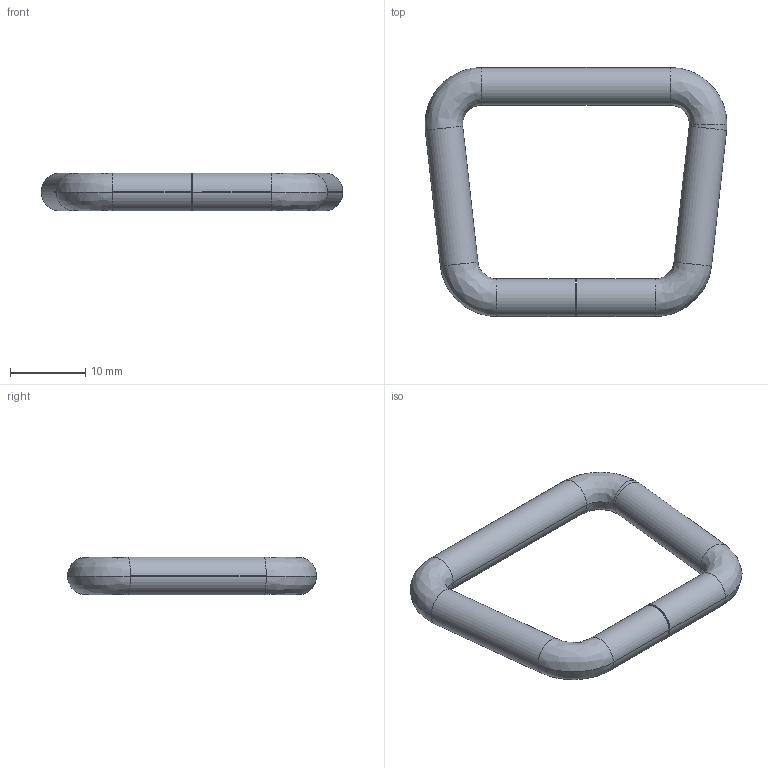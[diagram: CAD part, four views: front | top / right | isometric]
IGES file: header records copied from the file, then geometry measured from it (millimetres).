
Start section: SolidWorks IGES file using analytic representation for surfaces
Global section: file name: C:\Users\cbrechard\Desktop\GO 2032\GO 32.200.10.IGS; native system: SolidWorks 2008; preprocessor: SolidWorks 2008; author: cbrechard; date: 130424.091252; units: millimetre
Bounding box: 40.02 x 33 x 5 mm (x, y, z)
Surface area: 1822.5 mm2 (no closed solid volume)
Topology: 0 solids, 0 shells, 22 faces, 144 edges, 144 vertices
Faces by surface type: bspline 12, revolution 10
